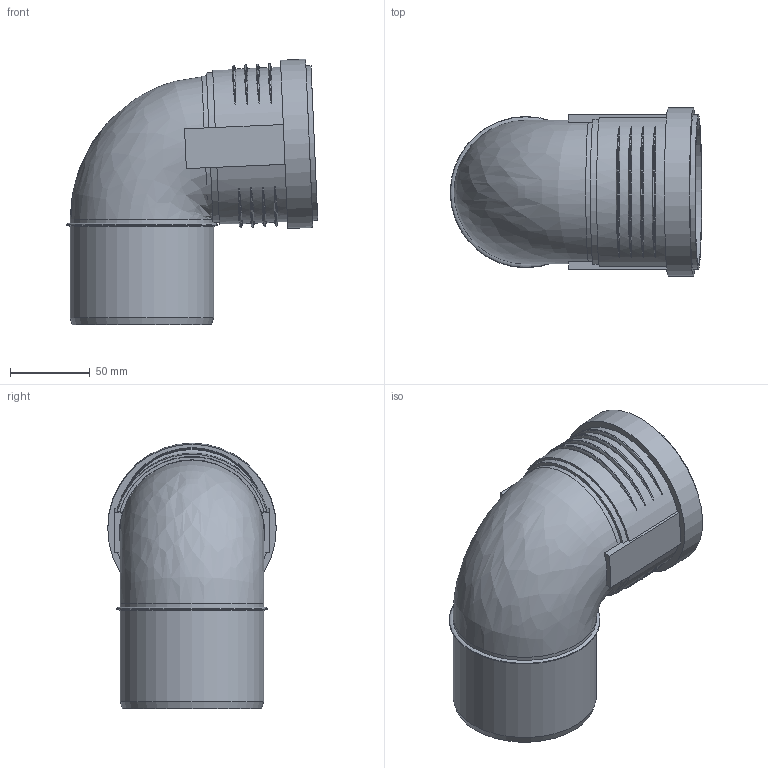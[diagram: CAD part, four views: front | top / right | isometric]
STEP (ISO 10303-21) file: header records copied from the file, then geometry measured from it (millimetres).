
FILE_DESCRIPTION(/* description */ (''),/* implementation_level */ '2;1');
FILE_NAME(/* name */ 'Z:\Geberit\Export\NewStep\390424.stp',/* time_stamp */ '2014-04-02T08:12:50+02:00',/* author */ ('ML'),/* organization */ (''),/* preprocessor_version */ 'ST-DEVELOPER v15.2',/* originating_system */ 'Autodesk Inventor 2014',/* authorisation */ '');
FILE_SCHEMA (('AUTOMOTIVE_DESIGN { 1 0 10303 214 3 1 1 }'));
Length unit declared in the file: millimetre
Products named in the file (3): 861315; 861403; 390424
Bounding box: 157.96 x 105.8 x 166.85 mm (x, y, z)
Volume: 195357.2 mm3; surface area: 130297.7 mm2
Topology: 2 solids, 2 shells, 68 faces, 162 edges, 109 vertices
Faces by surface type: torus 28, plane 19, cylinder 18, cone 2, bspline 1
Full cylindrical faces by diameter (mm): 84 x2, 84.2 x1, 90.2 x4, 91.2 x2, 97.2 x1, 99.8 x1, 105.8 x1
Entity records: 2726 total; most frequent: CARTESIAN_POINT 1150, DIRECTION 290, ORIENTED_EDGE 278, EDGE_CURVE 139, AXIS2_PLACEMENT_3D 127, VERTEX_POINT 106, EDGE_LOOP 103, STYLED_ITEM 70
